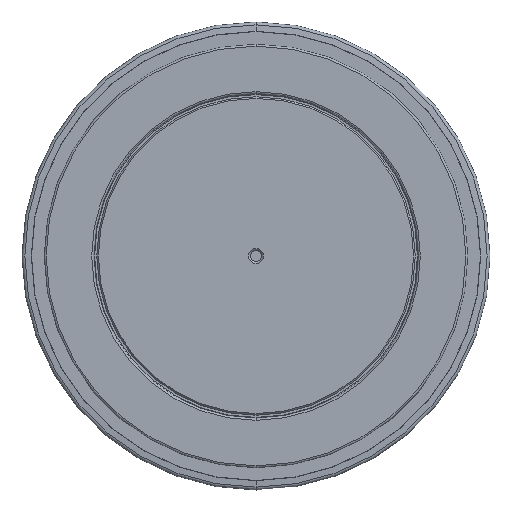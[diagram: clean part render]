
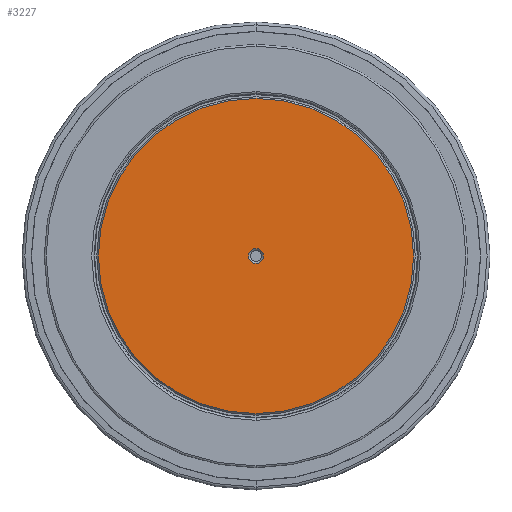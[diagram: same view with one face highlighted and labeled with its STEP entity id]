
A CAD part, front view. The second image highlights one B-rep face of the part: STEP entity #3227.
In plain terms, the highlighted planar face has unit normal (0, -1, 0).
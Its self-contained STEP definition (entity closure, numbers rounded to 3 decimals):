
#82 = ORIENTED_EDGE ( 'NONE', *, *, #5298, .T. ) ;
#112 = EDGE_CURVE ( 'NONE', #3406, #2186, #4747, .T. ) ;
#429 = DIRECTION ( 'NONE',  ( 0., 1., 0. ) ) ;
#686 = EDGE_CURVE ( 'NONE', #2553, #849, #3408, .T. ) ;
#849 = VERTEX_POINT ( 'NONE', #4456 ) ;
#857 = DIRECTION ( 'NONE',  ( -1., 0., 0. ) ) ;
#1138 = AXIS2_PLACEMENT_3D ( 'NONE', #5603, #3944, #4749 ) ;
#1257 = PLANE ( 'NONE',  #4428 ) ;
#1297 = CARTESIAN_POINT ( 'NONE',  ( 49.5, -40., 0. ) ) ;
#1299 = CIRCLE ( 'NONE', #1138, 2.35 ) ;
#1302 = CARTESIAN_POINT ( 'NONE',  ( 0., -40., 0. ) ) ;
#1523 = CIRCLE ( 'NONE', #5661, 49.5 ) ;
#1592 = DIRECTION ( 'NONE',  ( 0., 1., 0. ) ) ;
#1771 = FACE_BOUND ( 'NONE', #2837, .T. ) ;
#2186 = VERTEX_POINT ( 'NONE', #5521 ) ;
#2526 = AXIS2_PLACEMENT_3D ( 'NONE', #1302, #3038, #857 ) ;
#2553 = VERTEX_POINT ( 'NONE', #4571 ) ;
#2589 = FACE_OUTER_BOUND ( 'NONE', #5102, .T. ) ;
#2837 = EDGE_LOOP ( 'NONE', ( #82, #5129 ) ) ;
#2975 = CARTESIAN_POINT ( 'NONE',  ( -49.5, -40., 0. ) ) ;
#3038 = DIRECTION ( 'NONE',  ( 0., 1., 0. ) ) ;
#3071 = CARTESIAN_POINT ( 'NONE',  ( 0., -40., 0. ) ) ;
#3227 = ADVANCED_FACE ( 'NONE', ( #2589, #1771 ), #1257, .F. ) ;
#3320 = ORIENTED_EDGE ( 'NONE', *, *, #4722, .F. ) ;
#3350 = DIRECTION ( 'NONE',  ( -1., 0., 0. ) ) ;
#3402 = CARTESIAN_POINT ( 'NONE',  ( 0., -40., 0. ) ) ;
#3406 = VERTEX_POINT ( 'NONE', #1297 ) ;
#3408 = CIRCLE ( 'NONE', #4845, 2.35 ) ;
#3496 = ORIENTED_EDGE ( 'NONE', *, *, #112, .F. ) ;
#3836 = DIRECTION ( 'NONE',  ( 0., 1., 0. ) ) ;
#3944 = DIRECTION ( 'NONE',  ( 0., 1., 0. ) ) ;
#3987 = DIRECTION ( 'NONE',  ( -1., 0., 0. ) ) ;
#4328 = DIRECTION ( 'NONE',  ( -1., 0., 0. ) ) ;
#4428 = AXIS2_PLACEMENT_3D ( 'NONE', #2975, #3836, #4328 ) ;
#4456 = CARTESIAN_POINT ( 'NONE',  ( 2.35, -40., 0. ) ) ;
#4571 = CARTESIAN_POINT ( 'NONE',  ( -2.35, -40., 0. ) ) ;
#4722 = EDGE_CURVE ( 'NONE', #2186, #3406, #1523, .T. ) ;
#4747 = CIRCLE ( 'NONE', #2526, 49.5 ) ;
#4749 = DIRECTION ( 'NONE',  ( -1., 0., 0. ) ) ;
#4845 = AXIS2_PLACEMENT_3D ( 'NONE', #3071, #429, #3987 ) ;
#5102 = EDGE_LOOP ( 'NONE', ( #3320, #3496 ) ) ;
#5129 = ORIENTED_EDGE ( 'NONE', *, *, #686, .T. ) ;
#5298 = EDGE_CURVE ( 'NONE', #849, #2553, #1299, .T. ) ;
#5521 = CARTESIAN_POINT ( 'NONE',  ( -49.5, -40., 0. ) ) ;
#5603 = CARTESIAN_POINT ( 'NONE',  ( 0., -40., 0. ) ) ;
#5661 = AXIS2_PLACEMENT_3D ( 'NONE', #3402, #1592, #3350 ) ;
